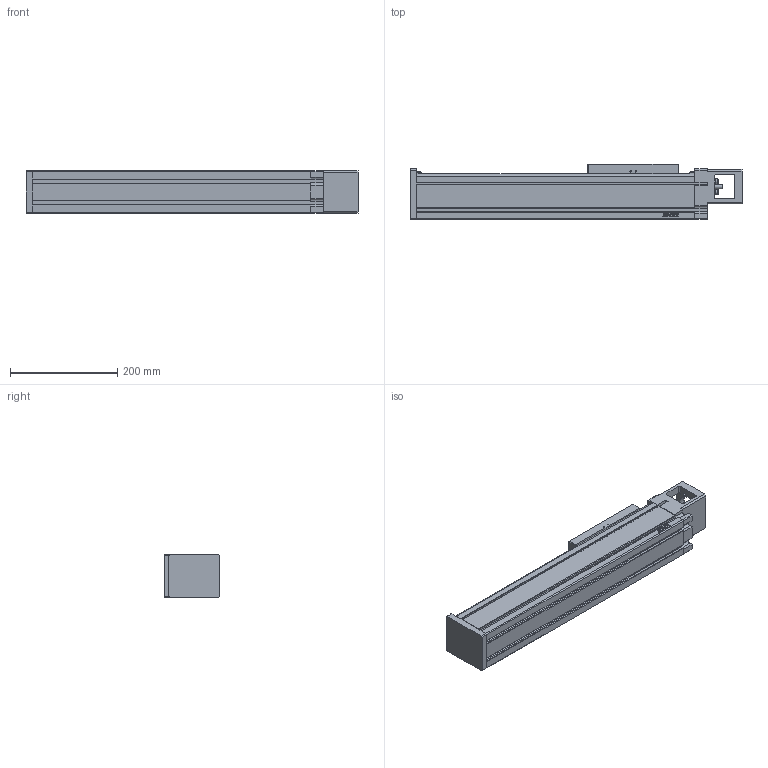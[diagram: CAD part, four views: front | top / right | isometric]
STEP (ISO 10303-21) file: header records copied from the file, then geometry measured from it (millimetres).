
FILE_DESCRIPTION(/* description */ (''),/* implementation_level */ '2;1');
FILE_NAME(/* name */ 'D:\混合母檔20191031\混和母檔\混和母檔\bin\Debug\Download\3D\KU80-10C-300AF0\KU80-10C-300AF0.stp',/* time_stamp */ '2019-11-04T17:01:28+08:00',/* author */ ('user'),/* organization */ (''),/* preprocessor_version */ 'ST-DEVELOPER v16.13',/* originating_system */ 'Autodesk Inventor 2018',/* authorisation */ '');
FILE_SCHEMA (('AUTOMOTIVE_DESIGN { 1 0 10303 214 3 1 1 }'));
Length unit declared in the file: millimetre
Products named in the file (3): KU80-10C-300AF0; KU80-F0-BP; KU80-SL
Assembly tree (2 placements, depth 2):
  KU80-10C-300AF0
    KU80-F0-BP
    KU80-SL
Bounding box: 620 x 103 x 80 mm (x, y, z)
Volume: 3897242.8 mm3; surface area: 355956.4 mm2
Topology: 2 solids, 10 shells, 862 faces, 2315 edges, 1508 vertices
Faces by surface type: plane 509, bspline 136, cylinder 104, cone 81, torus 28, sphere 4
Full cylindrical faces by diameter (mm): 2.459 x4, 2.729 x4, 3 x4, 3.242 x4, 3.5 x4, 4.134 x16, 5 x4, 5.5 x8, 5.6 x2, 8 x1, 8.5 x4, 12 x1, 46.5 x1
Entity records: 27990 total; most frequent: CARTESIAN_POINT 7413, ORIENTED_EDGE 4362, DIRECTION 3790, EDGE_CURVE 2181, VERTEX_POINT 1469, LINE 1298, VECTOR 1298, AXIS2_PLACEMENT_3D 1246
